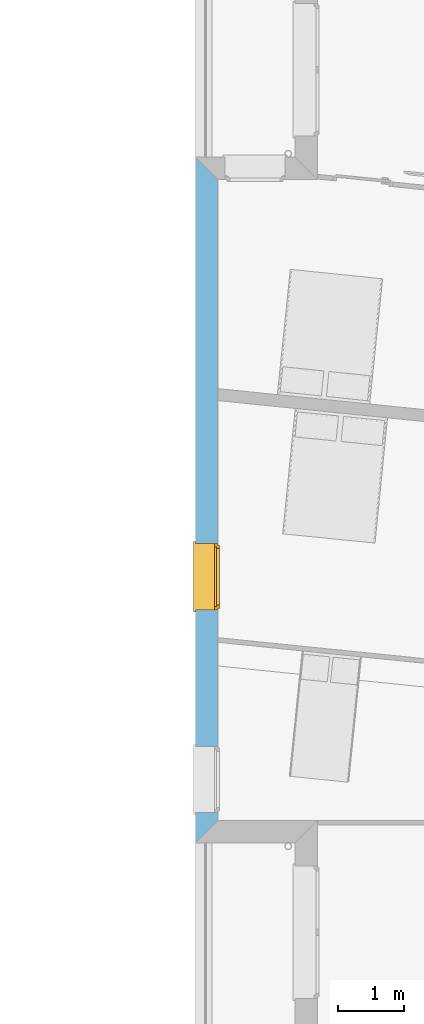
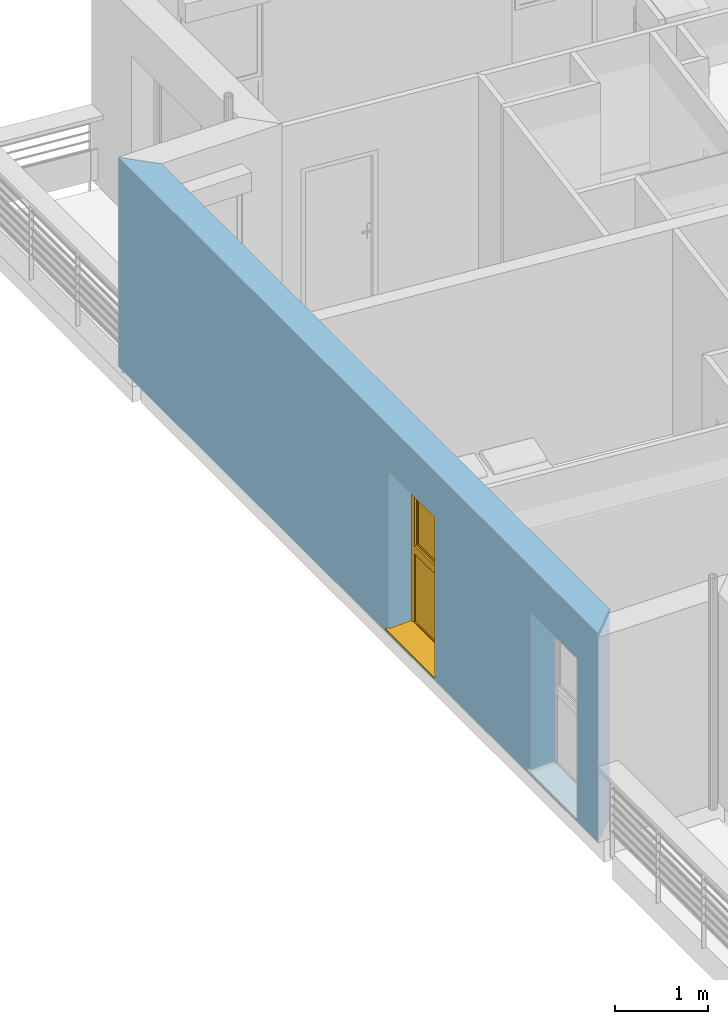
# One storey, part 62 of 171: 1 window, 2 openings, plus 1 element that does not belong to this part.
"""IFC2X3 building model written with IfcOpenShell, lengths in millimetres."""

import ifcopenshell
import ifcopenshell.guid

model = None  # the IFC model being written
_history = None  # IfcOwnerHistory: only IFC2X3 demands one
_inside = {}  # id of a spatial element -> (the spatial element, [elements in it])
_under = {}  # id of a project, library or spatial element -> (it, [spatial elements below it])
_declared = {}  # id of a project -> (the project, [libraries it declares])
_typed = {}  # id of a type object -> (the type object, [elements of that type])
_made_of = {}  # id of a material, layer set ... -> (it, [elements and type objects made of it])


def new_model(schema):
    """Start an empty IFC model of exactly this schema.

    Asked for "IFC4X3", IfcOpenShell would pick the latest addendum, in which some entities
    have other attributes; the version numbers below select the first issue.
    IFC2X3 requires an IfcOwnerHistory on every rooted entity: one is made here for all.
    """
    global model, _history
    if schema == "IFC4X3":
        model = ifcopenshell.file(schema_version=(4, 3, 0, 0))
    else:
        model = ifcopenshell.file(schema=schema)
    _inside.clear()
    _under.clear()
    _declared.clear()
    _typed.clear()
    _made_of.clear()
    _history = None
    if model.schema == "IFC2X3":
        org = make("IfcOrganization", Name="unknown")
        user = make(
            "IfcPersonAndOrganization",
            ThePerson=make("IfcPerson", FamilyName="unknown"),
            TheOrganization=org,
        )
        app = make(
            "IfcApplication",
            ApplicationDeveloper=org,
            Version="unknown",
            ApplicationFullName="unknown",
            ApplicationIdentifier="unknown",
        )
        _history = make(
            "IfcOwnerHistory",
            OwningUser=user,
            OwningApplication=app,
            ChangeAction="ADDED",
            CreationDate=0,
        )
    return model


def make(cls, **values):
    """One entity of the class cls with the attributes given. An attribute that is None is left unset."""
    return model.create_entity(
        cls, **{name: value for name, value in values.items() if value is not None}
    )


def entity(cls, *values):
    """Any entity or typed value of the class cls, its attributes in the order of the schema. None: left unset."""
    e = model.create_entity(cls)
    for i, value in enumerate(values):
        if value is not None:
            e[i] = value
    return e


def rooted(cls, **values):
    """An entity with a GlobalId (a new one), such as an element, a storey or a relation."""
    return make(cls, GlobalId=ifcopenshell.guid.new(), OwnerHistory=_history, **values)


def si_unit(unit_type, name, prefix=None):
    """IfcSIUnit, for example si_unit("LENGTHUNIT", "METRE", prefix="MILLI")."""
    return make("IfcSIUnit", UnitType=unit_type, Prefix=prefix, Name=name)


def converted_unit(unit_type, name, factor, base, dimensions=None, offset=None):
    """IfcConversionBasedUnit, such as the inch: factor (a typed value) times the base unit."""
    return make(
        "IfcConversionBasedUnit"
        if offset is None
        else "IfcConversionBasedUnitWithOffset",
        ConversionOffset=offset,
        Dimensions=None
        if dimensions is None
        else entity("IfcDimensionalExponents", *dimensions),
        UnitType=unit_type,
        Name=name,
        ConversionFactor=make(
            "IfcMeasureWithUnit", ValueComponent=factor, UnitComponent=base
        ),
    )


def derived_unit(unit_type, elements):
    """IfcDerivedUnit: a product of units, each with its exponent."""
    return make(
        "IfcDerivedUnit",
        Elements=[
            make("IfcDerivedUnitElement", Unit=unit, Exponent=power)
            for unit, power in elements
        ],
        UnitType=unit_type,
    )


def money_unit(currency):
    """IfcMonetaryUnit."""
    return make("IfcMonetaryUnit", Currency=currency)


def assignment(units):
    """IfcUnitAssignment: the units of a project."""
    return None if units is None else make("IfcUnitAssignment", Units=units)


def point(xyz):
    """IfcCartesianPoint."""
    return None if xyz is None else make("IfcCartesianPoint", Coordinates=xyz)


def direction(xyz):
    """IfcDirection."""
    return None if xyz is None else make("IfcDirection", DirectionRatios=xyz)


def frame(location, z_axis=None, x_axis=None):
    """IfcAxis2Placement3D, a coordinate frame: its origin and axes. An axis left out is left unset."""
    return make(
        "IfcAxis2Placement3D",
        Location=point(location),
        Axis=direction(z_axis),
        RefDirection=direction(x_axis),
    )


def origin_with_axes():
    """The frame at (0, 0, 0) with the z axis (0, 0, 1) and the x axis (1, 0, 0) written out."""
    return frame((0.0, 0.0, 0.0), z_axis=(0.0, 0.0, 1.0), x_axis=(1.0, 0.0, 0.0))


def place(relative_to, where):
    """IfcLocalPlacement: puts the frame where relative to a parent placement (None: the world)."""
    return make(
        "IfcLocalPlacement", PlacementRelTo=relative_to, RelativePlacement=where
    )


def context(
    kind, dimensions, precision=None, world=None, true_north=None, identifier=None
):
    """IfcGeometricRepresentationContext, for example the 3D "Model" context."""
    return make(
        "IfcGeometricRepresentationContext",
        ContextIdentifier=identifier,
        ContextType=kind,
        CoordinateSpaceDimension=dimensions,
        Precision=precision,
        WorldCoordinateSystem=world,
        TrueNorth=true_north,
    )


def subcontext(parent, identifier, kind, view, scale=None):
    """IfcGeometricRepresentationSubContext, for example "Body" below "Model"."""
    return make(
        "IfcGeometricRepresentationSubContext",
        ContextIdentifier=identifier,
        ContextType=kind,
        ParentContext=parent,
        TargetScale=scale,
        TargetView=view,
    )


def project(units=None, contexts=None):
    """IfcProject with its units and contexts."""
    return rooted(
        "IfcProject",
        Name="project",
        RepresentationContexts=contexts,
        UnitsInContext=assignment(units),
    )


def spatial(cls, under=None, at=None, **own):
    """A site, building, storey or space (cls), placed at a placement, below another one or the project."""
    s = rooted(cls, ObjectPlacement=at, **own)
    if under is not None:
        _under.setdefault(under.id(), (under, []))[1].append(s)
    return s


def polyline(points):
    """IfcPolyline through the points."""
    return make("IfcPolyline", Points=[point(p) for p in points])


def outline(outer, holes=None, kind="AREA"):
    """IfcArbitraryClosedProfileDef: a profile drawn as a closed curve; with holes, ...WithVoids."""
    if holes is None:
        return make("IfcArbitraryClosedProfileDef", ProfileType=kind, OuterCurve=outer)
    return make(
        "IfcArbitraryProfileDefWithVoids",
        ProfileType=kind,
        OuterCurve=outer,
        InnerCurves=holes,
    )


def extrude(swept, where, along, depth):
    """IfcExtrudedAreaSolid: the profile swept, set in the frame where, extruded along a direction by depth."""
    return make(
        "IfcExtrudedAreaSolid",
        SweptArea=swept,
        Position=where,
        ExtrudedDirection=direction(along),
        Depth=depth,
    )


def faces_of(points, faces, orient=None, outer=None):
    """IfcFace entities. A face is a list of loops; a loop is a list of indices into points, from 0.

    orient and outer hold one flag for each loop. By default every Orientation is true, the
    first loop of a face is its IfcFaceOuterBound and the others are IfcFaceBound.
    """
    made = []
    for i, loops in enumerate(faces):
        bounds = []
        for j, loop in enumerate(loops):
            is_outer = j == 0 if outer is None else outer[i][j]
            bounds.append(
                make(
                    "IfcFaceOuterBound" if is_outer else "IfcFaceBound",
                    Bound=make("IfcPolyLoop", Polygon=[points[k] for k in loop]),
                    Orientation=True if orient is None else orient[i][j],
                )
            )
        made.append(make("IfcFace", Bounds=bounds))
    return made


def open_shell(faces, orient=None, outer=None):
    """The faces of one IfcOpenShell. surface_model builds it on its shared points."""
    return ("IfcOpenShell", faces, orient, outer)


def faceted_brep(points, faces, orient=None, outer=None, voids=None):
    """IfcFacetedBrep: a solid bounded by flat faces; with voids (closed shells), ...WithVoids."""
    shared = [point(p) for p in points]
    hull = make("IfcClosedShell", CfsFaces=faces_of(shared, faces, orient, outer))
    if voids is None:
        return make("IfcFacetedBrep", Outer=hull)
    return make(
        "IfcFacetedBrepWithVoids",
        Outer=hull,
        Voids=[
            make(cls, CfsFaces=faces_of(shared, fs, o, b)) for cls, fs, o, b in voids
        ],
    )


def surface_model(cls, points, shells):
    """IfcFaceBasedSurfaceModel or IfcShellBasedSurfaceModel (cls): surfaces that need not close."""
    shared = [point(p) for p in points]
    made = [make(c, CfsFaces=faces_of(shared, fs, o, b)) for c, fs, o, b in shells]
    if cls == "IfcFaceBasedSurfaceModel":
        return make(cls, FbsmFaces=made)
    return make(cls, SbsmBoundary=made)


def shape(context_of_items, identifier, shape_type, items):
    """IfcShapeRepresentation: the items that make up one representation, for example the "Body"."""
    return make(
        "IfcShapeRepresentation",
        ContextOfItems=context_of_items,
        RepresentationIdentifier=identifier,
        RepresentationType=shape_type,
        Items=items,
    )


def source(mapping_origin, context_of_items, identifier, shape_type, items):
    """IfcRepresentationMap: a shape defined once, which mapped items show again and again."""
    return make(
        "IfcRepresentationMap",
        MappingOrigin=mapping_origin,
        MappedRepresentation=shape(context_of_items, identifier, shape_type, items),
    )


def transform(
    local_origin,
    x_axis=None,
    y_axis=None,
    z_axis=None,
    scale=None,
    scale2=None,
    scale3=None,
    uniform=True,
):
    """IfcCartesianTransformationOperator3D, or its non-uniform kind. x_axis, y_axis, z_axis: its Axis1, 2, 3."""
    if uniform:
        return make(
            "IfcCartesianTransformationOperator3D",
            Axis1=direction(x_axis),
            Axis2=direction(y_axis),
            LocalOrigin=point(local_origin),
            Scale=scale,
            Axis3=direction(z_axis),
        )
    return make(
        "IfcCartesianTransformationOperator3DnonUniform",
        Axis1=direction(x_axis),
        Axis2=direction(y_axis),
        LocalOrigin=point(local_origin),
        Scale=scale,
        Axis3=direction(z_axis),
        Scale2=scale2,
        Scale3=scale3,
    )


def mapped(mapping_source, mapping_target):
    """IfcMappedItem: shows the shape of a source again, moved by a transform."""
    return make(
        "IfcMappedItem", MappingSource=mapping_source, MappingTarget=mapping_target
    )


def material(Name=None, Category=None):
    """IfcMaterial."""
    return make("IfcMaterial", Name=Name, Category=Category)


def layer(
    of_material, thickness, ventilated=None, Name=None, Category=None, Priority=None
):
    """IfcMaterialLayer: one layer of a wall or slab, of a material (None: an air gap)."""
    return make(
        "IfcMaterialLayer",
        Material=of_material,
        LayerThickness=thickness,
        IsVentilated=ventilated,
        Name=Name,
        Category=Category,
        Priority=Priority,
    )


def layer_set(layers, Name=None):
    """IfcMaterialLayerSet."""
    return make("IfcMaterialLayerSet", MaterialLayers=layers, LayerSetName=Name)


def layer_usage(for_layer_set, set_direction, sense, offset, extent=None):
    """IfcMaterialLayerSetUsage: how a layer set lies in its element."""
    return make(
        "IfcMaterialLayerSetUsage",
        ForLayerSet=for_layer_set,
        LayerSetDirection=set_direction,
        DirectionSense=sense,
        OffsetFromReferenceLine=offset,
        ReferenceExtent=extent,
    )


def made_of(thing, what):
    """Note that an element or type object is made of a material, layer set ...; save() writes the relation."""
    if what is not None:
        _made_of.setdefault(what.id(), (what, []))[1].append(thing)
    return thing


def type_object(cls, material=None, **own):
    """A type object (cls), such as IfcWallType, which elements share."""
    return made_of(rooted(cls, **own), material)


def element(
    cls,
    number,
    at=None,
    inside=None,
    cuts=None,
    type_object=None,
    material=None,
    context=None,
    identifier="Body",
    shape_type=None,
    held_by="IfcProductDefinitionShape",
    body=None,
    shapes=None,
    **own,
):
    """One element of the class cls, such as IfcWall. Its Tag is "e" and its number.

    at: its placement. inside: the storey or other place that contains it. cuts: it is an
    opening in that element (IfcRelVoidsElement). A single representation is given by context,
    identifier, shape_type and body (its items); several are given by shapes. held_by: the class
    of the entity that holds the representations. save() writes the other relations.
    """
    e = rooted(cls, Tag="e%d" % number, ObjectPlacement=at, **own)
    if body is not None:
        shapes = [shape(context, identifier, shape_type, body)]
    if shapes is not None:
        e.Representation = make(held_by, Representations=shapes)
    if inside is not None:
        _inside.setdefault(inside.id(), (inside, []))[1].append(e)
    if cuts is not None:
        rooted(
            "IfcRelVoidsElement", RelatingBuildingElement=cuts, RelatedOpeningElement=e
        )
    if type_object is not None:
        _typed.setdefault(type_object.id(), (type_object, []))[1].append(e)
    return made_of(e, material)


def fill(opening, filler):
    """IfcRelFillsElement: the door or window that sits in an opening."""
    return rooted(
        "IfcRelFillsElement",
        RelatingOpeningElement=opening,
        RelatedBuildingElement=filler,
    )


def aggregate(whole, parts):
    """IfcRelAggregates: a whole, such as a stair, and the parts it consists of."""
    return rooted("IfcRelAggregates", RelatingObject=whole, RelatedObjects=parts)


def save(model, path):
    """Write the relations noted so far, then the file.

    IfcRelAggregates (storeys below a building ...), IfcRelContainedInSpatialStructure (elements
    in a storey), IfcRelDefinesByType, IfcRelAssociatesMaterial and IfcRelDeclares: one each for
    every whole, place, type object, material and project.
    """
    for whole, parts in _under.values():
        aggregate(whole, parts)
    for where, things in _inside.values():
        rooted(
            "IfcRelContainedInSpatialStructure",
            RelatedElements=things,
            RelatingStructure=where,
        )
    for kind, things in _typed.values():
        rooted("IfcRelDefinesByType", RelatedObjects=things, RelatingType=kind)
    for what, things in _made_of.values():
        rooted("IfcRelAssociatesMaterial", RelatedObjects=things, RelatingMaterial=what)
    for by, libraries in _declared.values():
        rooted("IfcRelDeclares", RelatingContext=by, RelatedDefinitions=libraries)
    model.write(path)


model = new_model("IFC2X3")

# Units and contexts
model_context = context("Model", 3, precision=0.01, world=origin_with_axes(), true_north=direction((0.0, 1.0)))
body_context = subcontext(model_context, "Body", "Model", "MODEL_VIEW")
ifc_project = project(units=[si_unit("LENGTHUNIT", "METRE", prefix="MILLI"), si_unit("AREAUNIT", "SQUARE_METRE"), si_unit("VOLUMEUNIT", "CUBIC_METRE"), converted_unit("PLANEANGLEUNIT", "DEGREE", entity("IfcPlaneAngleMeasure", 0.0174532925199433), si_unit("PLANEANGLEUNIT", "RADIAN"), dimensions=[0, 0, 0, 0, 0, 0, 0]), money_unit("USD"), converted_unit("TIMEUNIT", "Year", entity("IfcTimeMeasure", 31557600.0), si_unit("TIMEUNIT", "SECOND"), dimensions=[0, 0, 1, 0, 0, 0, 0]), si_unit("MASSUNIT", "GRAM", prefix="KILO"), si_unit("THERMODYNAMICTEMPERATUREUNIT", "DEGREE_CELSIUS"), si_unit("LUMINOUSINTENSITYUNIT", "LUMEN"), si_unit("ENERGYUNIT", "JOULE", prefix="MEGA"), derived_unit("THERMALCONDUCTANCEUNIT", [(si_unit("POWERUNIT", "WATT"), 1), (si_unit("LENGTHUNIT", "METRE"), -1), (si_unit("THERMODYNAMICTEMPERATUREUNIT", "KELVIN"), -1)]), derived_unit("SPECIFICHEATCAPACITYUNIT", [(si_unit("ENERGYUNIT", "JOULE"), 1), (si_unit("MASSUNIT", "GRAM", prefix="KILO"), -1), (si_unit("THERMODYNAMICTEMPERATUREUNIT", "KELVIN"), -1)]), derived_unit("MASSDENSITYUNIT", [(si_unit("MASSUNIT", "GRAM", prefix="KILO"), 1), (si_unit("VOLUMEUNIT", "CUBIC_METRE"), -1)])], contexts=[model_context])

# Site, building, storey
site_placement = place(None, origin_with_axes())
site = spatial("IfcSite", under=ifc_project, at=site_placement, Name="Site", CompositionType="ELEMENT")
building_placement = place(site_placement, origin_with_axes())
building = spatial("IfcBuilding", under=site, at=building_placement, Name="Bâtiment", CompositionType="ELEMENT")
storey_placement = place(building_placement, frame((0.0, 0.0, 3000.0), z_axis=(0.0, 0.0, 1.0), x_axis=(1.0, 0.0, 0.0)))
storey = spatial("IfcBuildingStorey", under=building, at=storey_placement, Name="rdc", CompositionType="ELEMENT", Elevation=3000.0)

# Wall, openings, window
ifc_material_1 = material(Name="Parpaing 312445824")
ifc_layer_1 = layer(ifc_material_1, 180.0, ventilated="UNKNOWN")
ifc_material_2 = material(Name="Isolant styromousse 301821074")
ifc_layer_2 = layer(ifc_material_2, 160.0, ventilated="UNKNOWN")
ifc_layer_set = layer_set([ifc_layer_1, ifc_layer_2], Name="isol int 18+16 0018356637")
ifc_layer_usage = layer_usage(ifc_layer_set, "AXIS2", "POSITIVE", 0.0)
wall_type = type_object("IfcWallType", Name="isol int 18+16 0018356637 340", PredefinedType="NOTDEFINED")
wall_placement = place(storey_placement, frame((2216634.233344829, -607167.3879007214, 0.0), z_axis=(0.0, 0.0, 1.0), x_axis=(0.0, -1.0, 0.0)))
wall = element("IfcWallStandardCase", 1, at=wall_placement, inside=storey, type_object=wall_type, material=ifc_layer_usage, Name="Mur-143", context=body_context, shape_type="SweptSolid", body=[
    extrude(outline(polyline([(0.0, 0.0), (10340.11790760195, 0.0), (10000.11790760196, 340.0000000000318), (340.0000000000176, 340.0000000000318), (0.0, 0.0)])), origin_with_axes(), (0.0, 0.0, 1.0), 2750.0),
])
opening_1_placement = place(wall_placement, frame((9384.213657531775, 4.547473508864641e-10, 49.99999999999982), z_axis=(0.0, 0.0, 1.0), x_axis=(1.0, 0.0, 0.0)))
element("IfcOpeningElement", 2, at=opening_1_placement, cuts=wall, Name="Fen-133", context=body_context, shape_type="Brep", body=[
    faceted_brep([(-499.9999999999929, 289.9999999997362, 2100.0), (-499.9999999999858, 341.0000000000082, 2100.0), (-499.9999999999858, 341.0000000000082, 0.0), (-499.9999999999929, 289.9999999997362, 0.0), (-499.9999999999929, 279.9999999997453, 2100.0), (-499.9999999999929, 279.9999999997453, 2350.0), (-499.9999999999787, 529.9999999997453, 2350.0), (-499.9999999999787, 529.9999999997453, 2100.0), (500.0000000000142, 341.0000000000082, 2100.0), (500.0000000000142, 341.0000000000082, 0.0), (500.0000000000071, 289.9999999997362, 0.0), (500.0, -1.000000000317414, 0.0), (-500.0, -1.000000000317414, 0.0), (-500.0, -1.000000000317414, 2100.0), (500.0000000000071, 279.9999999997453, 2100.0), (500.0000000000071, 279.9999999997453, 2350.0), (500.0000000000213, 529.9999999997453, 2350.0), (500.0000000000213, 529.9999999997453, 2100.0), (500.0000000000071, 289.9999999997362, 2100.0), (500.0, -1.000000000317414, 2100.0)], [[[0, 1, 2, 3]], [[1, 0, 4, 5, 6, 7]], [[1, 8, 9, 2]], [[10, 11, 12, 3, 2, 9]], [[4, 0, 3, 12, 13]], [[4, 14, 15, 5]], [[15, 16, 6, 5]], [[16, 17, 7, 6]], [[8, 1, 7, 17]], [[8, 18, 10, 9]], [[18, 14, 19, 11, 10]], [[13, 12, 11, 19]], [[14, 4, 13, 19]], [[18, 8, 17, 16, 15, 14]]]),
])
opening_2_placement = place(wall_placement, frame((6327.743476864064, 3.410605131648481e-10, 49.99999999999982), z_axis=(0.0, 0.0, 1.0), x_axis=(1.0, 0.0, 0.0)))
opening_2 = element("IfcOpeningElement", 3, at=opening_2_placement, cuts=wall, Name="Fen-133", context=body_context, shape_type="Brep", body=[
    faceted_brep([(-499.9999999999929, 289.9999999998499, 2100.0), (-499.9999999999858, 341.0000000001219, 2100.0), (-499.9999999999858, 341.0000000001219, 0.0), (-499.9999999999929, 289.9999999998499, 0.0), (-499.9999999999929, 279.999999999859, 2100.0), (-499.9999999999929, 279.999999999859, 2350.0), (-499.9999999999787, 529.999999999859, 2350.0), (-499.9999999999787, 529.999999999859, 2100.0), (500.0000000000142, 341.0000000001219, 2100.0), (500.0000000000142, 341.0000000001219, 0.0), (500.0000000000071, 289.9999999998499, 0.0), (500.0, -1.000000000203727, 0.0), (-500.0, -1.000000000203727, 0.0), (-500.0, -1.000000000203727, 2100.0), (500.0000000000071, 279.999999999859, 2100.0), (500.0000000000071, 279.999999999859, 2350.0), (500.0000000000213, 529.999999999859, 2350.0), (500.0000000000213, 529.999999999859, 2100.0), (500.0000000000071, 289.9999999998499, 2100.0), (500.0, -1.000000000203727, 2100.0)], [[[0, 1, 2, 3]], [[1, 0, 4, 5, 6, 7]], [[1, 8, 9, 2]], [[10, 11, 12, 3, 2, 9]], [[4, 0, 3, 12, 13]], [[4, 14, 15, 5]], [[6, 5, 15, 16]], [[7, 6, 16, 17]], [[8, 1, 7, 17]], [[8, 18, 10, 9]], [[18, 14, 19, 11, 10]], [[13, 12, 11, 19]], [[14, 4, 13, 19]], [[18, 8, 17, 16, 15, 14]]]),
])
window_style = type_object("IfcWindowStyle", Name="Fenêtre 27", ConstructionType="NOTDEFINED", OperationType="DOUBLE_PANEL_HORIZONTAL", ParameterTakesPrecedence=False, Sizeable=False)
shared_shape = source(origin_with_axes(), body_context, "Body", "SurfaceModel", [
    surface_model("IfcShellBasedSurfaceModel", [(-500.0, -51.00000000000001, 40.00000000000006), (500.0, -51.00000000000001, 40.0), (500.0, -51.00000000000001, 50.0), (-500.0, -51.00000000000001, 50.00000000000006), (-530.0, -369.9999999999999, 28.96551724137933), (530.0, -369.9999999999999, 28.96551724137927), (530.0, -339.9999999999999, 30.00324289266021), (500.0, -339.9999999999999, 30.00324289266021), (-500.0, -339.9999999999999, 30.00324289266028), (-530.0, -339.9999999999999, 30.00324289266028), (-530.0, -369.9999999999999, 8.96551724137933), (530.0, -369.9999999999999, 8.965517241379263), (-530.0, -359.9999999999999, 18.96551724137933), (530.0, -359.9999999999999, 18.96551724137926)], [open_shell([[[0, 1, 2, 3]], [[4, 5, 6, 7, 1, 0, 8, 9]], [[10, 11, 5, 4]], [[12, 13, 11, 10]]])]),
    faceted_brep([(500.0, -59.99999999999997, 2350.0), (500.0, 190.0, 2350.0), (497.0, 190.0, 2350.0), (497.0, -59.99999999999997, 2350.0), (500.0, -59.99999999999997, 2100.0), (500.0, 190.0, 2100.0), (497.0, 190.0, 2100.0), (497.0, -59.99999999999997, 2100.0)], [[[0, 1, 2, 3]], [[0, 4, 5, 1]], [[1, 5, 6, 2]], [[3, 2, 6, 7]], [[4, 0, 3, 7]], [[5, 4, 7, 6]]]),
    faceted_brep([(-497.0, -59.99999999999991, 2350.0), (-497.0, 190.0000000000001, 2350.0), (-500.0, 190.0000000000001, 2350.0), (-500.0, -59.99999999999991, 2350.0), (-497.0, -59.99999999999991, 2100.0), (-497.0, 190.0000000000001, 2100.0), (-500.0, 190.0000000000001, 2100.0), (-500.0, -59.99999999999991, 2100.0)], [[[0, 1, 2, 3]], [[0, 4, 5, 1]], [[1, 5, 6, 2]], [[3, 2, 6, 7]], [[4, 0, 3, 7]], [[5, 4, 7, 6]]]),
    faceted_brep([(497.0, -60.0, 2100.0), (497.0, -60.0, 2350.0), (-497.0, -59.99999999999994, 2350.0), (-497.0, -59.99999999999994, 2100.0), (497.0, -56.99999999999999, 2100.0), (497.0, -56.99999999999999, 2347.0), (497.0, 187.0, 2347.0), (497.0, 187.0, 2103.0), (497.0, -37.99999999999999, 2103.0), (497.0, -37.99999999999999, 2100.0), (497.0, 190.0, 2100.0), (497.0, 190.0, 2350.0), (-497.0, 190.0000000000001, 2350.0), (-497.0, 190.0000000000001, 2100.0), (-497.0, -37.99999999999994, 2100.0), (-497.0, -37.99999999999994, 2103.0), (-497.0, 187.0000000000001, 2103.0), (-497.0, 187.0000000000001, 2347.0), (-497.0, -56.99999999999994, 2347.0), (-497.0, -56.99999999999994, 2100.0)], [[[0, 1, 2, 3]], [[0, 4, 5, 6, 7, 8, 9, 10, 11, 1]], [[1, 11, 12, 2]], [[3, 2, 12, 13, 14, 15, 16, 17, 18, 19]], [[4, 0, 3, 19]], [[5, 4, 19, 18]], [[6, 5, 18, 17]], [[7, 6, 17, 16]], [[8, 7, 16, 15]], [[9, 8, 15, 14]], [[10, 9, 14, 13]], [[11, 10, 13, 12]]]),
    faceted_brep([(494.0, -40.37442957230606, 2206.419644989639), (494.0, -35.54711042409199, 2188.403844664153), (494.0, -27.66471820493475, 2171.5), (494.0, -16.9667554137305, 2156.22172576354), (494.0, -3.778274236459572, 2143.03324458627), (494.0, 11.50000000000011, 2132.335281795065), (494.0, 28.40384466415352, 2124.452889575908), (494.0, 46.4196449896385, 2119.625570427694), (494.0, 65.00000000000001, 2118.0), (494.0, 83.58035501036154, 2119.625570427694), (494.0, 101.5961553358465, 2124.452889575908), (494.0, 118.4999999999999, 2132.335281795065), (494.0, 133.7782742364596, 2143.03324458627), (494.0, 146.9667554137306, 2156.22172576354), (494.0, 157.6647182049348, 2171.5), (494.0, 165.5471104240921, 2188.403844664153), (494.0, 170.3744295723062, 2206.419644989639), (494.0, 171.9999999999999, 2225.0), (494.0, 170.3744295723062, 2243.580355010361), (494.0, 165.5471104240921, 2261.596155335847), (494.0, 157.6647182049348, 2278.5), (494.0, 146.9667554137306, 2293.77827423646), (494.0, 133.7782742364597, 2306.966755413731), (494.0, 118.5, 2317.664718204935), (494.0, 101.5961553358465, 2325.547110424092), (494.0, 83.58035501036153, 2330.374429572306), (494.0, 64.99999999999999, 2332.0), (494.0, 46.41964498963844, 2330.374429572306), (494.0, 28.40384466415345, 2325.547110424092), (494.0, 11.5, 2317.664718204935), (494.0, -3.778274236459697, 2306.966755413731), (494.0, -16.96675541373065, 2293.77827423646), (494.0, -27.66471820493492, 2278.5), (494.0, -35.54711042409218, 2261.596155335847), (494.0, -40.37442957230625, 2243.580355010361), (494.0, -41.99999999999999, 2225.0), (-494.0, -40.374429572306, 2206.419644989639), (-494.0, -35.54711042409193, 2188.403844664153), (-494.0, -27.6647182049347, 2171.5), (-494.0, -16.96675541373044, 2156.22172576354), (-494.0, -3.778274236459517, 2143.03324458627), (-494.0, 11.50000000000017, 2132.335281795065), (-494.0, 28.40384466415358, 2124.452889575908), (-494.0, 46.41964498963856, 2119.625570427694), (-494.0, 65.00000000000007, 2118.0), (-494.0, 83.5803550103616, 2119.625570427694), (-494.0, 101.5961553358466, 2124.452889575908), (-494.0, 118.5, 2132.335281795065), (-494.0, 133.7782742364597, 2143.03324458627), (-494.0, 146.9667554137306, 2156.22172576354), (-494.0, 157.6647182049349, 2171.5), (-494.0, 165.5471104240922, 2188.403844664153), (-494.0, 170.3744295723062, 2206.419644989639), (-494.0, 172.0, 2225.0), (-494.0, 170.3744295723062, 2243.580355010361), (-494.0, 165.5471104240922, 2261.596155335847), (-494.0, 157.6647182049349, 2278.5), (-494.0, 146.9667554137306, 2293.77827423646), (-494.0, 133.7782742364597, 2306.966755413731), (-494.0, 118.5, 2317.664718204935), (-494.0, 101.5961553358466, 2325.547110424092), (-494.0, 83.58035501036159, 2330.374429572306), (-494.0, 65.00000000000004, 2332.0), (-494.0, 46.41964498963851, 2330.374429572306), (-494.0, 28.40384466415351, 2325.547110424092), (-494.0, 11.50000000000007, 2317.664718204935), (-494.0, -3.778274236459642, 2306.966755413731), (-494.0, -16.96675541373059, 2293.77827423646), (-494.0, -27.66471820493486, 2278.5), (-494.0, -35.54711042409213, 2261.596155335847), (-494.0, -40.37442957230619, 2243.580355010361), (-494.0, -41.99999999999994, 2225.0)], [[[0, 1, 2, 3, 4, 5, 6, 7, 8, 9, 10, 11, 12, 13, 14, 15, 16, 17, 18, 19, 20, 21, 22, 23, 24, 25, 26, 27, 28, 29, 30, 31, 32, 33, 34, 35]], [[1, 0, 36, 37]], [[2, 1, 37, 38]], [[3, 2, 38, 39]], [[4, 3, 39, 40]], [[5, 4, 40, 41]], [[6, 5, 41, 42]], [[7, 6, 42, 43]], [[8, 7, 43, 44]], [[9, 8, 44, 45]], [[10, 9, 45, 46]], [[11, 10, 46, 47]], [[12, 11, 47, 48]], [[13, 12, 48, 49]], [[14, 13, 49, 50]], [[15, 14, 50, 51]], [[16, 15, 51, 52]], [[17, 16, 52, 53]], [[18, 17, 53, 54]], [[19, 18, 54, 55]], [[20, 19, 55, 56]], [[21, 20, 56, 57]], [[22, 21, 57, 58]], [[23, 22, 58, 59]], [[24, 23, 59, 60]], [[25, 24, 60, 61]], [[26, 25, 61, 62]], [[27, 26, 62, 63]], [[28, 27, 63, 64]], [[29, 28, 64, 65]], [[30, 29, 65, 66]], [[31, 30, 66, 67]], [[32, 31, 67, 68]], [[33, 32, 68, 69]], [[34, 33, 69, 70]], [[35, 34, 70, 71]], [[0, 35, 71, 36]], [[36, 71, 70, 69, 68, 67, 66, 65, 64, 63, 62, 61, 60, 59, 58, 57, 56, 55, 54, 53, 52, 51, 50, 49, 48, 47, 46, 45, 44, 43, 42, 41, 40, 39, 38, 37]]]),
    faceted_brep([(-500.0, -34.99999999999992, 30.0), (-500.0, -59.99999999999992, 30.0), (-500.0, -59.99999999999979, 2100.0), (-500.0, -34.99999999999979, 2100.0), (-475.0, -34.99999999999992, 30.0), (-475.0, -37.99999999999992, 30.0), (-497.0, -37.99999999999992, 30.0), (-497.0, -56.99999999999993, 30.0), (-475.0, -56.99999999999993, 30.0), (-475.0, -59.99999999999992, 30.0), (-475.0, -59.99999999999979, 2100.0), (-475.0, -56.99999999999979, 2100.0), (-497.0, -56.99999999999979, 2100.0), (-497.0, -37.99999999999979, 2100.0), (-475.0, -37.99999999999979, 2100.0), (-475.0, -34.99999999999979, 2100.0)], [[[0, 1, 2, 3]], [[0, 4, 5, 6, 7, 8, 9, 1]], [[1, 9, 10, 2]], [[3, 2, 10, 11, 12, 13, 14, 15]], [[4, 0, 3, 15]], [[5, 4, 15, 14]], [[6, 5, 14, 13]], [[7, 6, 13, 12]], [[8, 7, 12, 11]], [[9, 8, 11, 10]]]),
    faceted_brep([(500.0, -34.99999999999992, 30.0), (500.0, -34.99999999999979, 2100.0), (500.0, -59.99999999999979, 2100.0), (500.0, -59.99999999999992, 30.0), (475.0, -34.99999999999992, 30.0), (475.0, -34.99999999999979, 2100.0), (475.0, -37.99999999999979, 2100.0), (497.0, -37.99999999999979, 2100.0), (497.0, -56.99999999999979, 2100.0), (475.0, -56.99999999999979, 2100.0), (475.0, -59.99999999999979, 2100.0), (475.0, -59.99999999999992, 30.0), (475.0, -56.99999999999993, 30.0), (497.0, -56.99999999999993, 30.0), (497.0, -37.99999999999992, 30.0), (475.0, -37.99999999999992, 30.0)], [[[0, 1, 2, 3]], [[4, 5, 1, 0]], [[1, 5, 6, 7, 8, 9, 10, 2]], [[3, 2, 10, 11]], [[0, 3, 11, 12, 13, 14, 15, 4]], [[15, 6, 5, 4]], [[14, 7, 6, 15]], [[13, 8, 7, 14]], [[12, 9, 8, 13]], [[11, 10, 9, 12]]]),
    faceted_brep([(-497.0, -46.66666666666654, 2225.0), (497.0, -46.6666666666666, 2225.0), (497.0, -46.6666666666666, 2216.666666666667), (-497.0, -46.66666666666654, 2216.666666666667), (-497.0, -51.66666666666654, 2225.0), (497.0, -51.6666666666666, 2225.0), (497.0, -51.6666666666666, 2216.666666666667), (497.0, -49.99999999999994, 2200.0), (497.0, -44.99999999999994, 2200.0), (-497.0, -44.99999999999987, 2200.0), (-497.0, -49.99999999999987, 2200.0), (-497.0, -51.66666666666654, 2216.666666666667)], [[[0, 1, 2, 3]], [[1, 0, 4, 5]], [[1, 5, 6, 7, 8, 2]], [[2, 8, 9, 3]], [[4, 0, 3, 9, 10, 11]], [[6, 5, 4, 11]], [[7, 6, 11, 10]], [[8, 7, 10, 9]]]),
    faceted_brep([(497.0, -44.99999999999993, 2200.0), (497.0, -46.6666666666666, 2183.333333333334), (-497.0, -46.66666666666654, 2183.333333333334), (-497.0, -44.99999999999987, 2200.0), (497.0, -49.99999999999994, 2200.0), (497.0, -51.6666666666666, 2183.333333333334), (497.0, -51.6666666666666, 2166.666666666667), (497.0, -49.99999999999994, 2150.000000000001), (497.0, -44.99999999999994, 2150.000000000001), (497.0, -46.6666666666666, 2166.666666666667), (-497.0, -46.66666666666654, 2166.666666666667), (-497.0, -44.99999999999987, 2150.000000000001), (-497.0, -49.99999999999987, 2150.000000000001), (-497.0, -51.66666666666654, 2166.666666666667), (-497.0, -51.66666666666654, 2183.333333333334), (-497.0, -49.99999999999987, 2200.0)], [[[0, 1, 2, 3]], [[0, 4, 5, 6, 7, 8, 9, 1]], [[1, 9, 10, 2]], [[3, 2, 10, 11, 12, 13, 14, 15]], [[4, 0, 3, 15]], [[5, 4, 15, 14]], [[6, 5, 14, 13]], [[7, 6, 13, 12]], [[8, 7, 12, 11]], [[9, 8, 11, 10]]]),
    faceted_brep([(497.0, -44.99999999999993, 2150.000000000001), (497.0, -46.6666666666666, 2133.333333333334), (-497.0, -46.66666666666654, 2133.333333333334), (-497.0, -44.99999999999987, 2150.000000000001), (497.0, -49.99999999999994, 2150.000000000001), (497.0, -51.6666666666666, 2133.333333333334), (497.0, -51.6666666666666, 2116.666666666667), (497.0, -49.99999999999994, 2100.000000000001), (497.0, -44.99999999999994, 2100.000000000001), (497.0, -46.6666666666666, 2116.666666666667), (-497.0, -46.66666666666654, 2116.666666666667), (-497.0, -44.99999999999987, 2100.000000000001), (-497.0, -49.99999999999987, 2100.000000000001), (-497.0, -51.66666666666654, 2116.666666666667), (-497.0, -51.66666666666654, 2133.333333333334), (-497.0, -49.99999999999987, 2150.000000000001)], [[[0, 1, 2, 3]], [[0, 4, 5, 6, 7, 8, 9, 1]], [[1, 9, 10, 2]], [[3, 2, 10, 11, 12, 13, 14, 15]], [[4, 0, 3, 15]], [[5, 4, 15, 14]], [[6, 5, 14, 13]], [[7, 6, 13, 12]], [[8, 7, 12, 11]], [[9, 8, 11, 10]]]),
    faceted_brep([(475.0000000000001, 0.0, 2050.0), (475.0000000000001, -25.00000000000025, 2050.0), (450.0, -25.00000000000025, 2050.0), (450.0, -50.00000000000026, 2050.0), (500.0, -50.00000000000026, 2050.0), (500.0, 0.0, 2050.0), (475.0000000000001, 0.0, 1025.0), (475.0000000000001, -25.00000000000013, 1025.0), (450.0, -25.00000000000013, 1050.0), (450.0, -25.00000000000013, 1025.0), (450.0, -50.00000000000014, 1050.0), (450.0, -50.00000000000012, 950.0), (450.0, -50.00000000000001, 50.00000000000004), (500.0, -50.00000000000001, 50.00000000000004), (500.0, 0.0, 50.00000000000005), (450.0, 0.0, 50.00000000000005), (450.0, 0.0, 950.0), (450.0, 0.0, 1025.0)], [[[0, 1, 2, 3, 4, 5]], [[1, 0, 6, 7]], [[8, 2, 1, 7, 9]], [[2, 8, 10, 3]], [[10, 11, 12, 13, 4, 3]], [[5, 4, 13, 14]], [[6, 0, 5, 14, 15, 16, 17]], [[6, 17, 9, 7]], [[9, 17, 16, 11, 10, 8]], [[15, 12, 11, 16]], [[14, 13, 12, 15]]]),
    faceted_brep([(-450.0, -25.00000000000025, 2050.0), (-475.0000000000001, -25.00000000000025, 2050.0), (-475.0000000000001, 0.0, 2050.0), (-500.0, 0.0, 2050.0), (-500.0, -50.00000000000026, 2050.0), (-450.0, -50.00000000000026, 2050.0), (-450.0, -25.00000000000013, 1050.0), (-450.0, -25.00000000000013, 1025.0), (-475.0000000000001, -25.00000000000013, 1025.0), (-475.0000000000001, 0.0, 1025.0), (-450.0, 0.0, 1025.0), (-450.0, 0.0, 950.0), (-450.0, 0.0, 50.00000000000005), (-500.0, 0.0, 50.00000000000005), (-500.0, -50.00000000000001, 50.00000000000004), (-450.0, -50.00000000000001, 50.00000000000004), (-450.0, -50.00000000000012, 950.0), (-450.0, -50.00000000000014, 1050.0)], [[[0, 1, 2, 3, 4, 5]], [[1, 0, 6, 7, 8]], [[9, 2, 1, 8]], [[9, 10, 11, 12, 13, 3, 2]], [[13, 14, 4, 3]], [[14, 15, 16, 17, 5, 4]], [[6, 0, 5, 17]], [[7, 6, 17, 16, 11, 10]], [[10, 9, 8, 7]], [[11, 16, 15, 12]], [[12, 15, 14, 13]]]),
    faceted_brep([(450.0, -25.00000000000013, 1050.0), (-450.0, -25.00000000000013, 1050.0), (-450.0, -50.00000000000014, 1050.0), (450.0, -50.00000000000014, 1050.0), (-450.0, -25.00000000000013, 1025.0), (450.0, -25.00000000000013, 1025.0), (-450.0, 0.0, 1025.0), (-450.0, 0.0, 950.0), (-450.0, -50.00000000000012, 950.0), (450.0, -50.00000000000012, 950.0), (450.0, 0.0, 950.0), (450.0, 0.0, 1025.0)], [[[0, 1, 2, 3]], [[4, 1, 0, 5]], [[4, 6, 7, 8, 2, 1]], [[8, 9, 3, 2]], [[5, 0, 3, 9, 10, 11]], [[11, 6, 4, 5]], [[6, 11, 10, 7]], [[10, 9, 8, 7]]]),
    faceted_brep([(475.0000000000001, 0.0, 2050.0), (475.0000000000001, 0.0, 2075.0), (-475.0000000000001, 0.0, 2075.0), (-475.0000000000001, 0.0, 2050.0), (-500.0, 0.0, 2050.0), (-500.0, 0.0, 2100.0), (500.0, 0.0, 2100.0), (500.0, 0.0, 2050.0), (475.0000000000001, -25.00000000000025, 2050.0), (475.0000000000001, -25.00000000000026, 2075.0), (-475.0000000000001, -25.00000000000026, 2075.0), (-475.0000000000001, -25.00000000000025, 2050.0), (-450.0, -25.00000000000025, 2050.0), (-450.0, -50.00000000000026, 2050.0), (-500.0, -50.00000000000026, 2050.0), (-500.0, -50.00000000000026, 2100.0), (500.0, -50.00000000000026, 2100.0), (500.0, -50.00000000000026, 2050.0), (450.0, -50.00000000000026, 2050.0), (450.0, -25.00000000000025, 2050.0)], [[[0, 1, 2, 3, 4, 5, 6, 7]], [[1, 0, 8, 9]], [[2, 1, 9, 10]], [[3, 2, 10, 11]], [[11, 12, 13, 14, 4, 3]], [[4, 14, 15, 5]], [[5, 15, 16, 6]], [[6, 16, 17, 7]], [[8, 0, 7, 17, 18, 19]], [[12, 11, 10, 9, 8, 19]], [[12, 19, 18, 13]], [[14, 13, 18, 17, 16, 15]]]),
    faceted_brep([(450.0, -50.00000000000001, 50.0), (500.0, -50.00000000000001, 50.0), (500.0, 0.0, 50.00000000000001), (450.0, 0.0, 50.00000000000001), (-450.0, -50.00000000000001, 50.0), (-500.0, -50.00000000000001, 50.0), (-500.0, -50.0, 0.0), (500.0, -50.0, 0.0), (500.0, 0.0, 0.0), (-500.0, 0.0, 0.0), (-500.0, 0.0, 50.00000000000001), (-450.0, 0.0, 50.00000000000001)], [[[0, 1, 2, 3]], [[0, 4, 5, 6, 7, 1]], [[1, 7, 8, 2]], [[3, 2, 8, 9, 10, 11]], [[4, 0, 3, 11]], [[5, 4, 11, 10]], [[6, 5, 10, 9]], [[7, 6, 9, 8]]]),
    faceted_brep([(425.0000000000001, -25.00000000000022, 2025.0), (475.0000000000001, -25.00000000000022, 2025.0), (475.0000000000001, 24.99999999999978, 2025.0), (425.0000000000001, 24.99999999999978, 2025.0), (425.0000000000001, -25.00000000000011, 1075.0), (475.0000000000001, -25.0000000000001, 1075.0), (475.0000000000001, 24.9999999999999, 1075.0), (425.0000000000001, 24.9999999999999, 1075.0)], [[[0, 1, 2, 3]], [[0, 4, 5, 1]], [[1, 5, 6, 2]], [[3, 2, 6, 7]], [[4, 0, 3, 7]], [[5, 4, 7, 6]]]),
    faceted_brep([(-425.0000000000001, -25.00000000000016, 1075.0), (-475.0000000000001, -25.00000000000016, 1075.0), (-475.0000000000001, 24.99999999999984, 1075.0), (-425.0000000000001, 24.99999999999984, 1075.0), (-425.0000000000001, -25.00000000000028, 2025.0), (-475.0000000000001, -25.00000000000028, 2025.0), (-475.0000000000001, 24.99999999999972, 2025.0), (-425.0000000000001, 24.99999999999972, 2025.0)], [[[0, 1, 2, 3]], [[0, 4, 5, 1]], [[1, 5, 6, 2]], [[3, 2, 6, 7]], [[4, 0, 3, 7]], [[5, 4, 7, 6]]]),
    faceted_brep([(-475.0000000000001, -25.00000000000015, 1025.0), (-475.0000000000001, -25.00000000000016, 1075.0), (-475.0000000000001, 24.99999999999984, 1075.0), (-475.0000000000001, 24.99999999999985, 1025.0), (475.0000000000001, -25.0000000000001, 1025.0), (475.0000000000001, -25.0000000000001, 1075.0), (425.0000000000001, -25.00000000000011, 1075.0), (-425.0000000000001, -25.00000000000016, 1075.0), (-425.0000000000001, 24.99999999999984, 1075.0), (425.0000000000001, 24.9999999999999, 1075.0), (475.0000000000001, 24.9999999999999, 1075.0), (475.0000000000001, 24.9999999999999, 1025.0)], [[[0, 1, 2, 3]], [[0, 4, 5, 6, 7, 1]], [[1, 7, 8, 2]], [[3, 2, 8, 9, 10, 11]], [[4, 0, 3, 11]], [[5, 4, 11, 10]], [[6, 5, 10, 9]], [[7, 6, 9, 8]]]),
    faceted_brep([(475.0000000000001, -25.00000000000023, 2075.0), (475.0000000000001, -25.00000000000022, 2025.0), (475.0000000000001, 24.99999999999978, 2025.0), (475.0000000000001, 24.99999999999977, 2075.0), (-475.0000000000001, -25.00000000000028, 2075.0), (-475.0000000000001, -25.00000000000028, 2025.0), (-425.0000000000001, -25.00000000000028, 2025.0), (425.0000000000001, -25.00000000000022, 2025.0), (425.0000000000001, 24.99999999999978, 2025.0), (-425.0000000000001, 24.99999999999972, 2025.0), (-475.0000000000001, 24.99999999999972, 2025.0), (-475.0000000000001, 24.99999999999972, 2075.0)], [[[0, 1, 2, 3]], [[0, 4, 5, 6, 7, 1]], [[1, 7, 8, 2]], [[3, 2, 8, 9, 10, 11]], [[4, 0, 3, 11]], [[5, 4, 11, 10]], [[6, 5, 10, 9]], [[7, 6, 9, 8]]]),
    surface_model("IfcShellBasedSurfaceModel", [(425.0000000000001, -10.00000000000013, 1075.0), (425.0000000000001, -10.00000000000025, 2025.0), (-425.0000000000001, -10.00000000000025, 2025.0), (-425.0000000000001, -10.00000000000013, 1075.0)], [open_shell([[[0, 1, 2, 3]]])]),
    surface_model("IfcShellBasedSurfaceModel", [(425.0000000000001, 9.999999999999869, 1075.0), (-425.0000000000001, 9.999999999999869, 1075.0), (-425.0000000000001, 9.999999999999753, 2025.0), (425.0000000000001, 9.999999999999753, 2025.0)], [open_shell([[[0, 1, 2, 3]]])]),
    surface_model("IfcShellBasedSurfaceModel", [(450.0, -35.0, 49.99999999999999), (450.0, -35.00000000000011, 950.0), (-450.0, -35.00000000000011, 950.0), (-450.0, -35.0, 49.99999999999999)], [open_shell([[[0, 1, 2, 3]]])]),
    surface_model("IfcShellBasedSurfaceModel", [(450.0, -15.0, 49.99999999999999), (-450.0, -15.0, 49.99999999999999), (-450.0, -15.00000000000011, 950.0), (450.0, -15.00000000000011, 950.0)], [open_shell([[[0, 1, 2, 3]]])]),
])
window_placement = place(opening_2_placement, frame((-499.9999999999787, -1.13686837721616e-10, 0.0), z_axis=(0.0, 0.0, 1.0), x_axis=(1.0, 0.0, 0.0)))
window = element("IfcWindow", 4, at=window_placement, inside=storey, type_object=window_style, Name="Fen-133", OverallHeight=2100.0, OverallWidth=1000.0, context=body_context, shape_type="MappedRepresentation", body=[
    mapped(shared_shape, transform((500.0000000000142, 339.9999999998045, 0.0))),
])
fill(opening_2, window)

save(model, "model.ifc")
